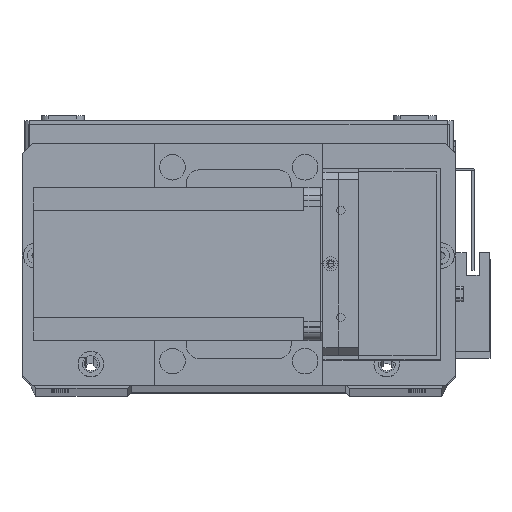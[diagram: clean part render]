
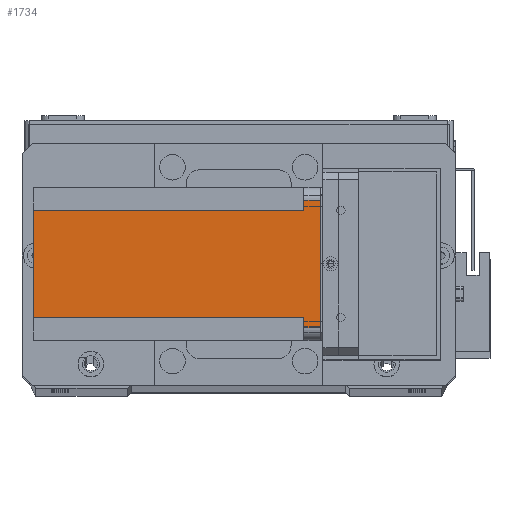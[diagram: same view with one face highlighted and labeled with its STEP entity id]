
A CAD part, top view. The second image highlights one B-rep face of the part: STEP entity #1734.
In plain terms, the highlighted planar face has unit normal (0, 0, 1) as drawn and (-1, 0, 0) by its records, which use the part's own axes.
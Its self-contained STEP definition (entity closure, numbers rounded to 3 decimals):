
#195 = VERTEX_POINT ( 'NONE', #17465 ) ;
#612 = VERTEX_POINT ( 'NONE', #10054 ) ;
#1734 = ADVANCED_FACE ( 'NONE', ( #18956 ), #9228, .T. ) ;
#1860 = CARTESIAN_POINT ( 'NONE',  ( 0., 0., 0. ) ) ;
#1933 = CARTESIAN_POINT ( 'NONE',  ( 0., 5., 0. ) ) ;
#2245 = DIRECTION ( 'NONE',  ( 0., -1., 0. ) ) ;
#2644 = VERTEX_POINT ( 'NONE', #28304 ) ;
#2663 = EDGE_CURVE ( 'NONE', #612, #2644, #5263, .T. ) ;
#2991 = VERTEX_POINT ( 'NONE', #13068 ) ;
#2992 = DIRECTION ( 'NONE',  ( 0., -1., 0. ) ) ;
#3078 = DIRECTION ( 'NONE',  ( 0., 0., -1. ) ) ;
#3220 = DIRECTION ( 'NONE',  ( -1., 0., 0. ) ) ;
#3260 = CARTESIAN_POINT ( 'NONE',  ( 0., 9., -6.5 ) ) ;
#3917 = EDGE_CURVE ( 'NONE', #11180, #195, #9663, .T. ) ;
#4030 = VECTOR ( 'NONE', #18977, 1000. ) ;
#4821 = VECTOR ( 'NONE', #14876, 1000. ) ;
#5263 = LINE ( 'NONE', #22959, #6334 ) ;
#5463 = ORIENTED_EDGE ( 'NONE', *, *, #23034, .F. ) ;
#5713 = LINE ( 'NONE', #18934, #4030 ) ;
#5808 = VECTOR ( 'NONE', #2245, 1000. ) ;
#5851 = CARTESIAN_POINT ( 'NONE',  ( 0., 0., -112.5 ) ) ;
#6334 = VECTOR ( 'NONE', #3078, 1000. ) ;
#6373 = CARTESIAN_POINT ( 'NONE',  ( 0., 51., -112.5 ) ) ;
#6747 = VERTEX_POINT ( 'NONE', #1933 ) ;
#8197 = EDGE_CURVE ( 'NONE', #26837, #195, #5713, .T. ) ;
#8462 = CARTESIAN_POINT ( 'NONE',  ( 0., 0., -6.5 ) ) ;
#9120 = LINE ( 'NONE', #1860, #5808 ) ;
#9228 = PLANE ( 'NONE',  #17992 ) ;
#9636 = CARTESIAN_POINT ( 'NONE',  ( 0., 5., -112.5 ) ) ;
#9663 = LINE ( 'NONE', #30714, #28427 ) ;
#10054 = CARTESIAN_POINT ( 'NONE',  ( 0., 55., 0. ) ) ;
#10979 = DIRECTION ( 'NONE',  ( 0., 1., 0. ) ) ;
#11180 = VERTEX_POINT ( 'NONE', #3260 ) ;
#12866 = LINE ( 'NONE', #8462, #31582 ) ;
#13068 = CARTESIAN_POINT ( 'NONE',  ( 0., 51., -6.5 ) ) ;
#13180 = EDGE_CURVE ( 'NONE', #26837, #2991, #21765, .T. ) ;
#13238 = LINE ( 'NONE', #22075, #4821 ) ;
#14425 = EDGE_CURVE ( 'NONE', #612, #6747, #9120, .T. ) ;
#14876 = DIRECTION ( 'NONE',  ( 0., 1., 0. ) ) ;
#15076 = VECTOR ( 'NONE', #29180, 1000. ) ;
#16641 = DIRECTION ( 'NONE',  ( 0., 0., 1. ) ) ;
#17465 = CARTESIAN_POINT ( 'NONE',  ( 0., 9., -112.5 ) ) ;
#17992 = AXIS2_PLACEMENT_3D ( 'NONE', #5851, #3220, #2992 ) ;
#18878 = CARTESIAN_POINT ( 'NONE',  ( 0., 5., -6.5 ) ) ;
#18934 = CARTESIAN_POINT ( 'NONE',  ( 0., 0., -112.5 ) ) ;
#18956 = FACE_OUTER_BOUND ( 'NONE', #32216, .T. ) ;
#18977 = DIRECTION ( 'NONE',  ( 0., -1., 0. ) ) ;
#19025 = VERTEX_POINT ( 'NONE', #18878 ) ;
#21765 = LINE ( 'NONE', #6373, #22555 ) ;
#22075 = CARTESIAN_POINT ( 'NONE',  ( 0., 60., -6.5 ) ) ;
#22555 = VECTOR ( 'NONE', #16641, 1000. ) ;
#22959 = CARTESIAN_POINT ( 'NONE',  ( 0., 55., -112.5 ) ) ;
#23034 = EDGE_CURVE ( 'NONE', #19025, #11180, #12866, .T. ) ;
#25935 = ORIENTED_EDGE ( 'NONE', *, *, #3917, .F. ) ;
#26837 = VERTEX_POINT ( 'NONE', #31506 ) ;
#27122 = EDGE_CURVE ( 'NONE', #2991, #2644, #13238, .T. ) ;
#27133 = ORIENTED_EDGE ( 'NONE', *, *, #2663, .T. ) ;
#28070 = LINE ( 'NONE', #9636, #15076 ) ;
#28304 = CARTESIAN_POINT ( 'NONE',  ( 0., 55., -6.5 ) ) ;
#28316 = ORIENTED_EDGE ( 'NONE', *, *, #14425, .F. ) ;
#28427 = VECTOR ( 'NONE', #29429, 1000. ) ;
#29180 = DIRECTION ( 'NONE',  ( 0., 0., 1. ) ) ;
#29429 = DIRECTION ( 'NONE',  ( 0., 0., -1. ) ) ;
#29971 = ORIENTED_EDGE ( 'NONE', *, *, #32181, .T. ) ;
#30714 = CARTESIAN_POINT ( 'NONE',  ( 0., 9., -112.5 ) ) ;
#30921 = ORIENTED_EDGE ( 'NONE', *, *, #8197, .T. ) ;
#30980 = ORIENTED_EDGE ( 'NONE', *, *, #13180, .F. ) ;
#31506 = CARTESIAN_POINT ( 'NONE',  ( 0., 51., -112.5 ) ) ;
#31582 = VECTOR ( 'NONE', #10979, 1000. ) ;
#31819 = ORIENTED_EDGE ( 'NONE', *, *, #27122, .F. ) ;
#32181 = EDGE_CURVE ( 'NONE', #19025, #6747, #28070, .T. ) ;
#32216 = EDGE_LOOP ( 'NONE', ( #5463, #29971, #28316, #27133, #31819, #30980, #30921, #25935 ) ) ;
